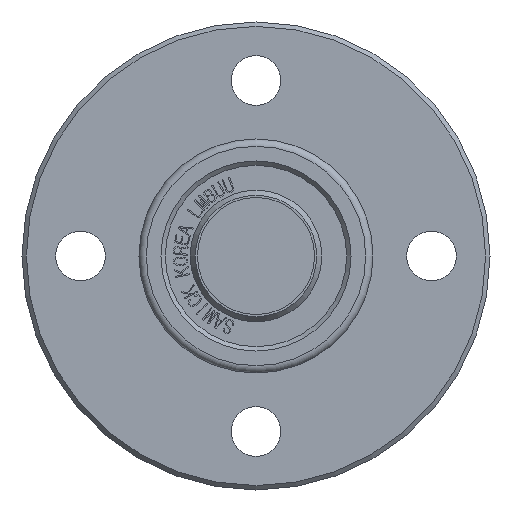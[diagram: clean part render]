
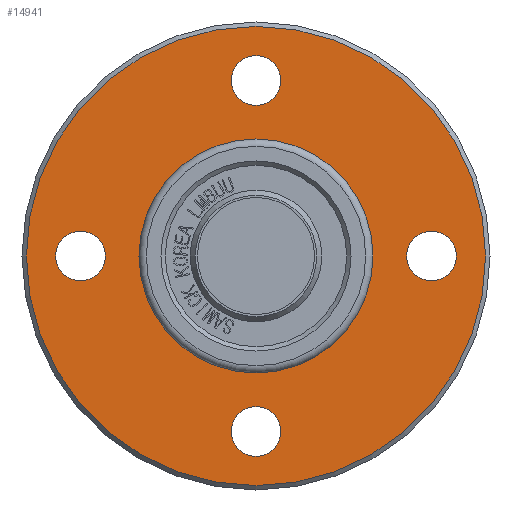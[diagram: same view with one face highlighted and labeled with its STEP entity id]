
A CAD part, front view. The second image highlights one B-rep face of the part: STEP entity #14941.
In plain terms, the highlighted planar face has unit normal (0, -1, 0).
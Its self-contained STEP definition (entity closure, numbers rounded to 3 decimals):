
#4343=FACE_BOUND('',#5246,.T.);
#4344=FACE_BOUND('',#5247,.T.);
#4345=FACE_BOUND('',#5248,.T.);
#4346=FACE_BOUND('',#5249,.T.);
#4347=FACE_BOUND('',#5250,.T.);
#4418=FACE_OUTER_BOUND('',#5245,.T.);
#5245=EDGE_LOOP('',(#10134,#10135));
#5246=EDGE_LOOP('',(#10136));
#5247=EDGE_LOOP('',(#10137));
#5248=EDGE_LOOP('',(#10138));
#5249=EDGE_LOOP('',(#10139));
#5250=EDGE_LOOP('',(#10140,#10141));
#6118=CIRCLE('',#15777,1.7);
#6124=CIRCLE('',#15786,1.7);
#6130=CIRCLE('',#15795,1.7);
#6136=CIRCLE('',#15804,1.7);
#6143=CIRCLE('',#15814,15.7);
#6144=CIRCLE('',#15815,15.7);
#6145=CIRCLE('',#15817,8.);
#6146=CIRCLE('',#15818,8.);
#6192=VERTEX_POINT('',#17824);
#6198=VERTEX_POINT('',#17841);
#6204=VERTEX_POINT('',#17858);
#6210=VERTEX_POINT('',#17875);
#6217=VERTEX_POINT('',#17895);
#6218=VERTEX_POINT('',#17896);
#6219=VERTEX_POINT('',#17901);
#6220=VERTEX_POINT('',#17902);
#7750=EDGE_CURVE('',#6192,#6192,#6118,.T.);
#7758=EDGE_CURVE('',#6198,#6198,#6124,.T.);
#7766=EDGE_CURVE('',#6204,#6204,#6130,.T.);
#7774=EDGE_CURVE('',#6210,#6210,#6136,.T.);
#7783=EDGE_CURVE('',#6217,#6218,#6143,.T.);
#7784=EDGE_CURVE('',#6218,#6217,#6144,.T.);
#7786=EDGE_CURVE('',#6219,#6220,#6145,.T.);
#7787=EDGE_CURVE('',#6220,#6219,#6146,.T.);
#10134=ORIENTED_EDGE('',*,*,#7783,.T.);
#10135=ORIENTED_EDGE('',*,*,#7784,.T.);
#10136=ORIENTED_EDGE('',*,*,#7750,.T.);
#10137=ORIENTED_EDGE('',*,*,#7758,.T.);
#10138=ORIENTED_EDGE('',*,*,#7766,.T.);
#10139=ORIENTED_EDGE('',*,*,#7774,.T.);
#10140=ORIENTED_EDGE('',*,*,#7786,.F.);
#10141=ORIENTED_EDGE('',*,*,#7787,.F.);
#14710=PLANE('',#15816);
#14941=ADVANCED_FACE('',(#4418,#4343,#4344,#4345,#4346,#4347),#14710,.T.);
#15777=AXIS2_PLACEMENT_3D('',#17826,#16106,#16107);
#15786=AXIS2_PLACEMENT_3D('',#17843,#16126,#16127);
#15795=AXIS2_PLACEMENT_3D('',#17860,#16146,#16147);
#15804=AXIS2_PLACEMENT_3D('',#17877,#16166,#16167);
#15814=AXIS2_PLACEMENT_3D('',#17897,#16188,#16189);
#15815=AXIS2_PLACEMENT_3D('',#17898,#16190,#16191);
#15816=AXIS2_PLACEMENT_3D('',#17900,#16193,#16194);
#15817=AXIS2_PLACEMENT_3D('',#17903,#16195,#16196);
#15818=AXIS2_PLACEMENT_3D('',#17904,#16197,#16198);
#16106=DIRECTION('center_axis',(0.,1.,0.));
#16107=DIRECTION('ref_axis',(0.,0.,1.));
#16126=DIRECTION('center_axis',(0.,1.,0.));
#16127=DIRECTION('ref_axis',(-1.,0.,0.));
#16146=DIRECTION('center_axis',(0.,1.,0.));
#16147=DIRECTION('ref_axis',(0.,0.,-1.));
#16166=DIRECTION('center_axis',(0.,1.,0.));
#16167=DIRECTION('ref_axis',(1.,0.,0.));
#16188=DIRECTION('center_axis',(0.,-1.,0.));
#16189=DIRECTION('ref_axis',(1.,0.,0.));
#16190=DIRECTION('center_axis',(0.,-1.,0.));
#16191=DIRECTION('ref_axis',(1.,0.,0.));
#16193=DIRECTION('center_axis',(0.,-1.,0.));
#16194=DIRECTION('ref_axis',(0.,0.,-1.));
#16195=DIRECTION('center_axis',(0.,-1.,0.));
#16196=DIRECTION('ref_axis',(1.,0.,0.));
#16197=DIRECTION('center_axis',(0.,-1.,0.));
#16198=DIRECTION('ref_axis',(1.,0.,0.));
#17824=CARTESIAN_POINT('',(0.,7.5,10.3));
#17826=CARTESIAN_POINT('Origin',(0.,7.5,12.));
#17841=CARTESIAN_POINT('',(-10.3,7.5,0.));
#17843=CARTESIAN_POINT('Origin',(-12.,7.5,0.));
#17858=CARTESIAN_POINT('',(0.,7.5,-10.3));
#17860=CARTESIAN_POINT('Origin',(0.,7.5,-12.));
#17875=CARTESIAN_POINT('',(10.3,7.5,0.));
#17877=CARTESIAN_POINT('Origin',(12.,7.5,0.));
#17895=CARTESIAN_POINT('',(15.7,7.5,0.));
#17896=CARTESIAN_POINT('',(-15.7,7.5,0.));
#17897=CARTESIAN_POINT('Origin',(0.,7.5,0.));
#17898=CARTESIAN_POINT('Origin',(0.,7.5,0.));
#17900=CARTESIAN_POINT('Origin',(8.,7.5,0.));
#17901=CARTESIAN_POINT('',(8.,7.5,0.));
#17902=CARTESIAN_POINT('',(-8.,7.5,0.));
#17903=CARTESIAN_POINT('Origin',(0.,7.5,0.));
#17904=CARTESIAN_POINT('Origin',(0.,7.5,0.));
